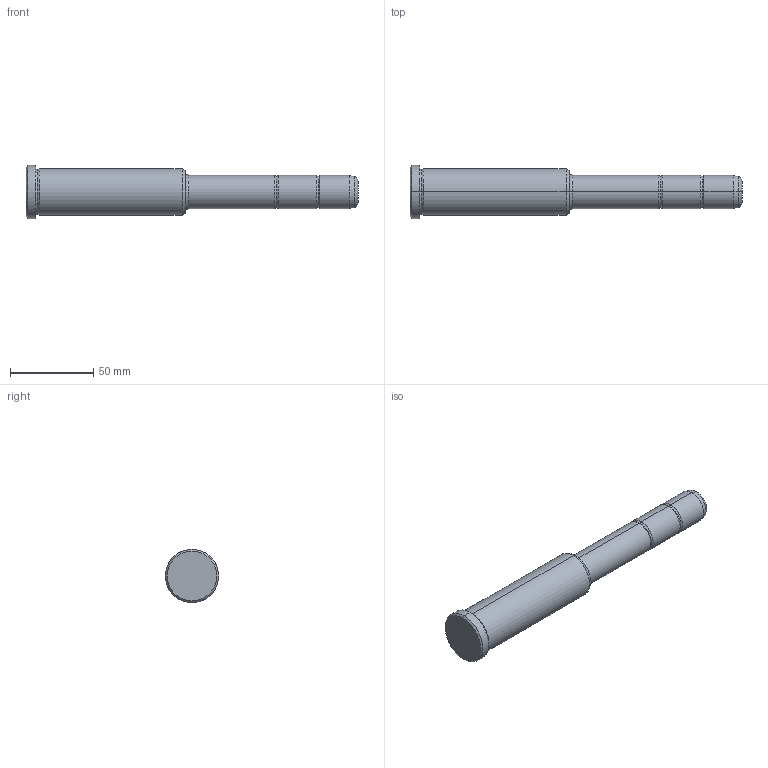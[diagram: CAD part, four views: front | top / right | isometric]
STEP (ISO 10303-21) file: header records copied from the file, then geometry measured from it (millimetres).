
FILE_DESCRIPTION(('CATIA V5 STEP Exchange'),'2;1');
FILE_NAME('C:\Users\Utente\Desktop\IO LAVORO\3D X SITO CF\X SITO\PLASTICA\351\351-20X96X200.stp','2021-08-27T13:18:39+00:00',('none'),('none'),'CATIA Version 5 Release 20 GA (IN-10)','CATIA V5 STEP AP203','none');
FILE_SCHEMA(('CONFIG_CONTROL_DESIGN'));
Length unit declared in the file: millimetre
Products named in the file (1): 351-20X96X200
Bounding box: 200 x 32 x 32 mm (x, y, z)
Volume: 92423.5 mm3; surface area: 16397.1 mm2
Topology: 1 solids, 1 shells, 36 faces, 102 edges, 70 vertices
Faces by surface type: torus 16, cylinder 10, cone 6, plane 4
Entity records: 1292 total; most frequent: CARTESIAN_POINT 321, ORIENTED_EDGE 204, DIRECTION 166, AXIS2_PLACEMENT_3D 115, EDGE_CURVE 102, CIRCLE 78, VERTEX_POINT 70, EDGE_LOOP 38
